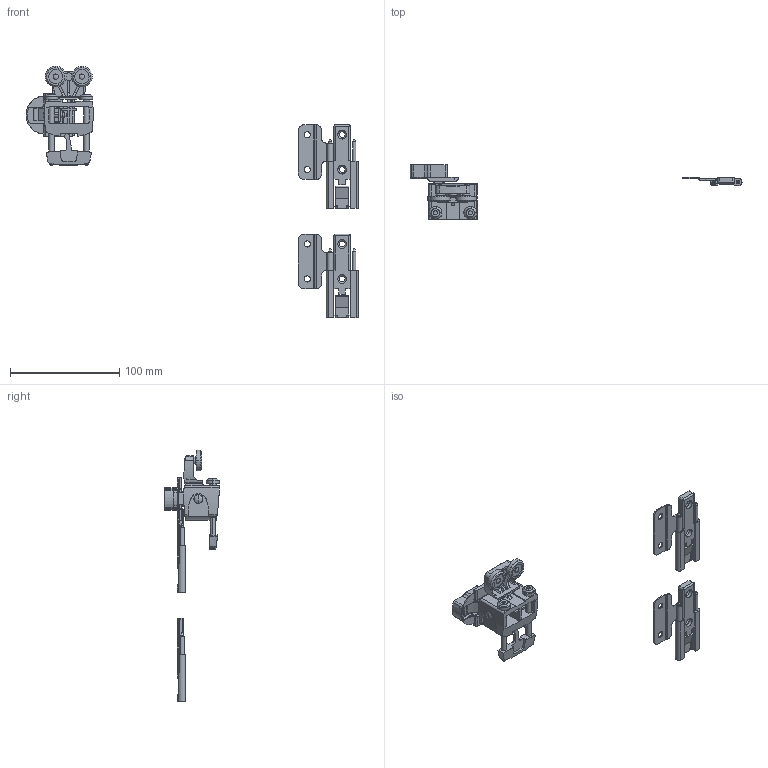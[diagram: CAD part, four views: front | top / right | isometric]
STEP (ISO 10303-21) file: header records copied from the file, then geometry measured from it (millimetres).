
FILE_DESCRIPTION( ( '' ), '1' );
FILE_NAME( 'D:/temp/hettich_stp/hettich/4_folding_sliding/4.4_folding_door/10kg_wl_780_wl_780_alu/set_wl_780_left/9080212.stp', '2013-02-26T10:20:24', ( '' ), ( '' ), ' ', ' ', ' ' );
FILE_SCHEMA( ( 'automotive_design' ) );
Length unit declared in the file: millimetre
Products named in the file (5): 1; 2; 3; 4; 5
Bounding box: 303.7 x 49.98 x 230.1 mm (x, y, z)
Volume: 64420.5 mm3; surface area: 44872.4 mm2
Topology: 5 solids, 5 shells, 735 faces, 2062 edges, 1354 vertices
Faces by surface type: plane 383, cylinder 300, cone 36, torus 14, sphere 2
Entity records: 48152 total; most frequent: CARTESIAN_POINT 5544, STYLED_ITEM 4154, PRESENTATION_STYLE_ASSIGNMENT 4154, COLOUR_RGB 4154, DIRECTION 4143, ORIENTED_EDGE 4120, EDGE_CURVE 2060, CURVE_STYLE 2060
